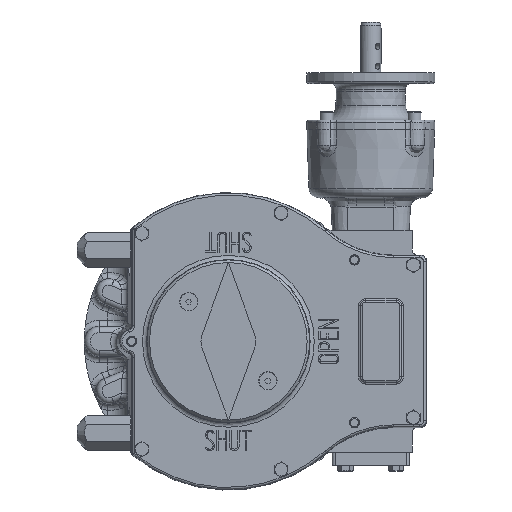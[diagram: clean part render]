
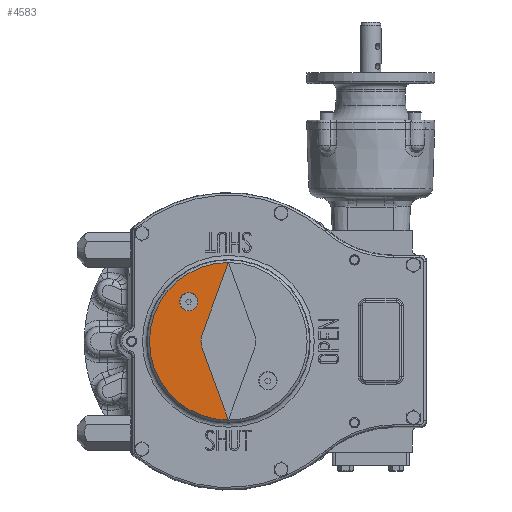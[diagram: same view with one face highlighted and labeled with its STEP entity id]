
A CAD part, top view. The second image highlights one B-rep face of the part: STEP entity #4583.
In plain terms, the highlighted planar face has unit normal (0, 0, 1).
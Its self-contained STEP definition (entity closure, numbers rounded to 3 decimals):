
#4583 = ADVANCED_FACE( '', ( #10692, #10693 ), #10694, .T. );
#10692 = FACE_BOUND( '', #31225, .T. );
#10693 = FACE_OUTER_BOUND( '', #31226, .T. );
#10694 = PLANE( '', #31227 );
#31225 = EDGE_LOOP( '', ( #63517 ) );
#31226 = EDGE_LOOP( '', ( #63518, #63519, #63520, #63521 ) );
#31227 = AXIS2_PLACEMENT_3D( '', #63522, #63523, #63524 );
#63517 = ORIENTED_EDGE( '', *, *, #79640, .T. );
#63518 = ORIENTED_EDGE( '', *, *, #79641, .T. );
#63519 = ORIENTED_EDGE( '', *, *, #79570, .T. );
#63520 = ORIENTED_EDGE( '', *, *, #79642, .T. );
#63521 = ORIENTED_EDGE( '', *, *, #79643, .F. );
#63522 = CARTESIAN_POINT( '', ( 77.5, 0., 116. ) );
#63523 = DIRECTION( '', ( 0., 0., 1. ) );
#63524 = DIRECTION( '', ( 0., 1., 0. ) );
#79570 = EDGE_CURVE( '', #90651, #90649, #90652, .F. );
#79640 = EDGE_CURVE( '', #90742, #90742, #90743, .T. );
#79641 = EDGE_CURVE( '', #87487, #90651, #90744, .T. );
#79642 = EDGE_CURVE( '', #90649, #87486, #90745, .T. );
#79643 = EDGE_CURVE( '', #87487, #87486, #90746, .T. );
#87486 = VERTEX_POINT( '', #109039 );
#87487 = VERTEX_POINT( '', #109040 );
#90649 = VERTEX_POINT( '', #118775 );
#90651 = VERTEX_POINT( '', #118778 );
#90652 = CIRCLE( '', #118779, 20. );
#90742 = VERTEX_POINT( '', #119239 );
#90743 = CIRCLE( '', #119240, 9. );
#90744 = LINE( '', #119241, #119242 );
#90745 = LINE( '', #119243, #119244 );
#90746 = CIRCLE( '', #119245, 77.5 );
#109039 = CARTESIAN_POINT( '', ( 0., 77.5, 116. ) );
#109040 = CARTESIAN_POINT( '', ( 0., -77.5, 116. ) );
#118775 = CARTESIAN_POINT( '', ( -25.718, 6.84, 116. ) );
#118778 = CARTESIAN_POINT( '', ( -25.718, -6.84, 116. ) );
#118779 = AXIS2_PLACEMENT_3D( '', #135539, #135540, #135541 );
#119239 = CARTESIAN_POINT( '', ( -47.891, 38.891, 116. ) );
#119240 = AXIS2_PLACEMENT_3D( '', #135595, #135596, #135597 );
#119241 = CARTESIAN_POINT( '', ( 0., -77.5, 116. ) );
#119242 = VECTOR( '', #135598, 1000. );
#119243 = CARTESIAN_POINT( '', ( -28.208, 0., 116. ) );
#119244 = VECTOR( '', #135599, 1000. );
#119245 = AXIS2_PLACEMENT_3D( '', #135600, #135601, #135602 );
#135539 = CARTESIAN_POINT( '', ( -6.924, 0., 116. ) );
#135540 = DIRECTION( '', ( 0., 0., 1. ) );
#135541 = DIRECTION( '', ( 0., 1., 0. ) );
#135595 = CARTESIAN_POINT( '', ( -38.891, 38.891, 116. ) );
#135596 = DIRECTION( '', ( 0., 0., -1. ) );
#135597 = DIRECTION( '', ( -1., 0., 0. ) );
#135598 = DIRECTION( '', ( -0.342, 0.94, 0. ) );
#135599 = DIRECTION( '', ( 0.342, 0.94, 0. ) );
#135600 = CARTESIAN_POINT( '', ( 0., 0., 116. ) );
#135601 = DIRECTION( '', ( 0., 0., -1. ) );
#135602 = DIRECTION( '', ( 0., -1., 0. ) );
